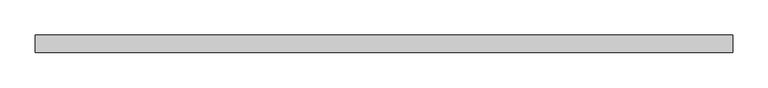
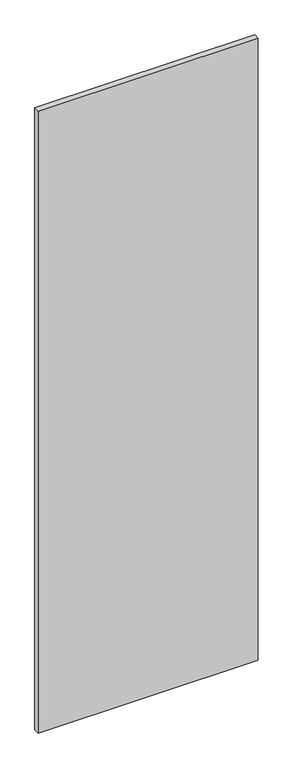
"""IFC4 building model written with IfcOpenShell, lengths in millimetres: plate geometry, 系统嵌板 : 玻璃."""

from ifc_helpers import new_model, si_unit, origin, origin_with_axes, place, context, project, spatial, polyline, outline, extrude, source, transform, mapped, element, save


def plate_7eeac649(model_context):
    return source(origin(), model_context, "Body", "SweptSolid", [
        extrude(outline(polyline([(495.0, -12.5), (-495.0, -12.5), (-495.0, 12.5), (495.0, 12.5), (495.0, -12.5)])), origin_with_axes(), (0.0, 0.0, 1.0), 2955.0),
    ])


if __name__ == "__main__":
    model = new_model("IFC4")
    model_context = context("Model", 3, world=origin())
    ifc_project = project(units=[si_unit("LENGTHUNIT", "METRE", prefix="MILLI")], contexts=[model_context])
    site = spatial("IfcSite", under=ifc_project)
    building = spatial("IfcBuilding", under=site)
    placement = place(None, origin())
    plate_shape = plate_7eeac649(model_context)
    element("IfcPlate", 1, ObjectType="系统嵌板 : 玻璃", at=placement, inside=building, context=model_context, shape_type="MappedRepresentation", body=[
        mapped(plate_shape, transform((0.0, 0.0, 0.0), x_axis=(1.0, 0.0, 0.0), y_axis=(0.0, 1.0, 0.0), z_axis=(0.0, 0.0, 1.0))),
    ])
    save(model, "model.ifc")
